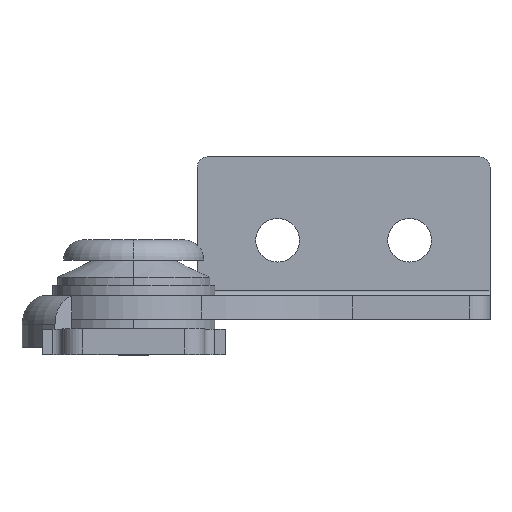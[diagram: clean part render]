
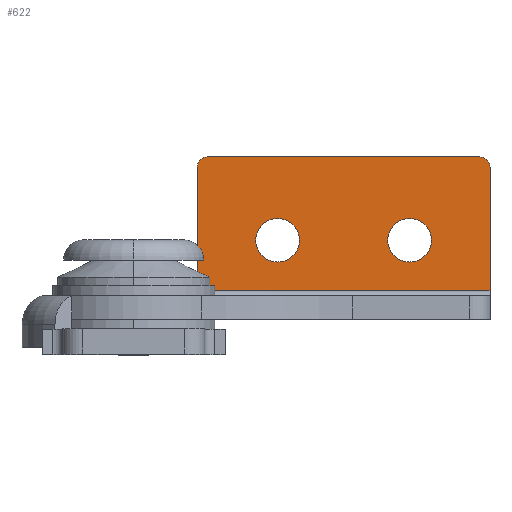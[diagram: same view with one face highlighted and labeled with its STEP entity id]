
A CAD part, top view. The second image highlights one B-rep face of the part: STEP entity #622.
In plain terms, the highlighted planar face has unit normal (0, 0, 1).
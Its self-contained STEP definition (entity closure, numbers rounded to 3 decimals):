
#76 = VECTOR ( 'NONE', #280, 1000. ) ;
#77 = EDGE_CURVE ( 'NONE', #1224, #2538, #1463, .T. ) ;
#114 = DIRECTION ( 'NONE',  ( 0., 0., 1. ) ) ;
#115 = CARTESIAN_POINT ( 'NONE',  ( 16.322, 10.6, -7.926 ) ) ;
#122 = ORIENTED_EDGE ( 'NONE', *, *, #1729, .F. ) ;
#145 = DIRECTION ( 'NONE',  ( 1., 0., 0. ) ) ;
#198 = DIRECTION ( 'NONE',  ( 1., 0., 0. ) ) ;
#232 = LINE ( 'NONE', #2467, #76 ) ;
#242 = DIRECTION ( 'NONE',  ( 1., 0., 0. ) ) ;
#263 = EDGE_CURVE ( 'NONE', #2538, #1224, #2556, .T. ) ;
#280 = DIRECTION ( 'NONE',  ( 0., -1., 0. ) ) ;
#292 = ORIENTED_EDGE ( 'NONE', *, *, #1567, .T. ) ;
#308 = CARTESIAN_POINT ( 'NONE',  ( 0., 5.628, -7.926 ) ) ;
#326 = CIRCLE ( 'NONE', #1032, 2.15 ) ;
#334 = CARTESIAN_POINT ( 'NONE',  ( 6.252, 5.628, -7.926 ) ) ;
#368 = CARTESIAN_POINT ( 'NONE',  ( 34.092, 18.8, -7.926 ) ) ;
#371 = FACE_OUTER_BOUND ( 'NONE', #412, .T. ) ;
#412 = EDGE_LOOP ( 'NONE', ( #1936, #292, #1481, #1024, #122, #2229 ) ) ;
#490 = AXIS2_PLACEMENT_3D ( 'NONE', #2315, #2099, #1056 ) ;
#539 = AXIS2_PLACEMENT_3D ( 'NONE', #1106, #114, #2126 ) ;
#561 = EDGE_CURVE ( 'NONE', #747, #2170, #1102, .T. ) ;
#569 = FACE_BOUND ( 'NONE', #1094, .T. ) ;
#577 = CIRCLE ( 'NONE', #490, 2.15 ) ;
#615 = DIRECTION ( 'NONE',  ( 0., 0., 1. ) ) ;
#622 = ADVANCED_FACE ( 'NONE', ( #1289, #569, #371 ), #776, .T. ) ;
#636 = CARTESIAN_POINT ( 'NONE',  ( 6.252, 2.8, -7.926 ) ) ;
#740 = ORIENTED_EDGE ( 'NONE', *, *, #1065, .F. ) ;
#747 = VERTEX_POINT ( 'NONE', #334 ) ;
#749 = AXIS2_PLACEMENT_3D ( 'NONE', #1600, #831, #198 ) ;
#776 = PLANE ( 'NONE',  #953 ) ;
#818 = CARTESIAN_POINT ( 'NONE',  ( 7.252, 18.8, -7.926 ) ) ;
#831 = DIRECTION ( 'NONE',  ( 0., 0., 1. ) ) ;
#879 = EDGE_CURVE ( 'NONE', #980, #1307, #2102, .T. ) ;
#921 = ORIENTED_EDGE ( 'NONE', *, *, #77, .F. ) ;
#928 = CARTESIAN_POINT ( 'NONE',  ( 35.092, 5.628, -7.926 ) ) ;
#953 = AXIS2_PLACEMENT_3D ( 'NONE', #2372, #1172, #1771 ) ;
#967 = CARTESIAN_POINT ( 'NONE',  ( 29.322, 10.6, -7.926 ) ) ;
#980 = VERTEX_POINT ( 'NONE', #818 ) ;
#995 = CARTESIAN_POINT ( 'NONE',  ( 14.172, 10.6, -7.926 ) ) ;
#1017 = LINE ( 'NONE', #636, #2430 ) ;
#1024 = ORIENTED_EDGE ( 'NONE', *, *, #879, .T. ) ;
#1032 = AXIS2_PLACEMENT_3D ( 'NONE', #995, #615, #242 ) ;
#1051 = DIRECTION ( 'NONE',  ( 1., 0., 0. ) ) ;
#1056 = DIRECTION ( 'NONE',  ( 1., 0., 0. ) ) ;
#1065 = EDGE_CURVE ( 'NONE', #1428, #1181, #577, .T. ) ;
#1094 = EDGE_LOOP ( 'NONE', ( #1620, #740 ) ) ;
#1102 = LINE ( 'NONE', #308, #1720 ) ;
#1106 = CARTESIAN_POINT ( 'NONE',  ( 27.172, 10.6, -7.926 ) ) ;
#1107 = DIRECTION ( 'NONE',  ( 1., 0., 0. ) ) ;
#1109 = EDGE_LOOP ( 'NONE', ( #1400, #921 ) ) ;
#1161 = CIRCLE ( 'NONE', #2052, 1. ) ;
#1172 = DIRECTION ( 'NONE',  ( 0., 0., 1. ) ) ;
#1181 = VERTEX_POINT ( 'NONE', #1525 ) ;
#1224 = VERTEX_POINT ( 'NONE', #967 ) ;
#1243 = LINE ( 'NONE', #2457, #2163 ) ;
#1247 = VERTEX_POINT ( 'NONE', #368 ) ;
#1288 = VERTEX_POINT ( 'NONE', #1397 ) ;
#1289 = FACE_BOUND ( 'NONE', #1109, .T. ) ;
#1307 = VERTEX_POINT ( 'NONE', #1424 ) ;
#1348 = EDGE_CURVE ( 'NONE', #1181, #1428, #326, .T. ) ;
#1360 = CARTESIAN_POINT ( 'NONE',  ( 34.092, 17.8, -7.926 ) ) ;
#1397 = CARTESIAN_POINT ( 'NONE',  ( 35.092, 17.8, -7.926 ) ) ;
#1400 = ORIENTED_EDGE ( 'NONE', *, *, #263, .F. ) ;
#1424 = CARTESIAN_POINT ( 'NONE',  ( 6.252, 17.8, -7.926 ) ) ;
#1428 = VERTEX_POINT ( 'NONE', #115 ) ;
#1463 = CIRCLE ( 'NONE', #539, 2.15 ) ;
#1481 = ORIENTED_EDGE ( 'NONE', *, *, #1910, .F. ) ;
#1525 = CARTESIAN_POINT ( 'NONE',  ( 12.022, 10.6, -7.926 ) ) ;
#1563 = DIRECTION ( 'NONE',  ( 0., 0., 1. ) ) ;
#1567 = EDGE_CURVE ( 'NONE', #1288, #1247, #1161, .T. ) ;
#1600 = CARTESIAN_POINT ( 'NONE',  ( 7.252, 17.8, -7.926 ) ) ;
#1620 = ORIENTED_EDGE ( 'NONE', *, *, #1348, .F. ) ;
#1720 = VECTOR ( 'NONE', #1913, 1000. ) ;
#1729 = EDGE_CURVE ( 'NONE', #747, #1307, #1017, .T. ) ;
#1771 = DIRECTION ( 'NONE',  ( 1., 0., 0. ) ) ;
#1775 = DIRECTION ( 'NONE',  ( 0., 0., 1. ) ) ;
#1818 = CARTESIAN_POINT ( 'NONE',  ( 25.022, 10.6, -7.926 ) ) ;
#1910 = EDGE_CURVE ( 'NONE', #980, #1247, #1243, .T. ) ;
#1913 = DIRECTION ( 'NONE',  ( 1., 0., 0. ) ) ;
#1936 = ORIENTED_EDGE ( 'NONE', *, *, #2010, .F. ) ;
#1993 = DIRECTION ( 'NONE',  ( 0., 1., 0. ) ) ;
#2010 = EDGE_CURVE ( 'NONE', #1288, #2170, #232, .T. ) ;
#2052 = AXIS2_PLACEMENT_3D ( 'NONE', #1360, #1563, #1107 ) ;
#2099 = DIRECTION ( 'NONE',  ( 0., 0., 1. ) ) ;
#2102 = CIRCLE ( 'NONE', #749, 1. ) ;
#2126 = DIRECTION ( 'NONE',  ( 1., 0., 0. ) ) ;
#2163 = VECTOR ( 'NONE', #1051, 1000. ) ;
#2170 = VERTEX_POINT ( 'NONE', #928 ) ;
#2229 = ORIENTED_EDGE ( 'NONE', *, *, #561, .T. ) ;
#2315 = CARTESIAN_POINT ( 'NONE',  ( 14.172, 10.6, -7.926 ) ) ;
#2364 = CARTESIAN_POINT ( 'NONE',  ( 27.172, 10.6, -7.926 ) ) ;
#2372 = CARTESIAN_POINT ( 'NONE',  ( 0., 0., -7.926 ) ) ;
#2389 = AXIS2_PLACEMENT_3D ( 'NONE', #2364, #1775, #145 ) ;
#2430 = VECTOR ( 'NONE', #1993, 1000. ) ;
#2457 = CARTESIAN_POINT ( 'NONE',  ( 35.092, 18.8, -7.926 ) ) ;
#2467 = CARTESIAN_POINT ( 'NONE',  ( 35.092, 2.8, -7.926 ) ) ;
#2538 = VERTEX_POINT ( 'NONE', #1818 ) ;
#2556 = CIRCLE ( 'NONE', #2389, 2.15 ) ;
